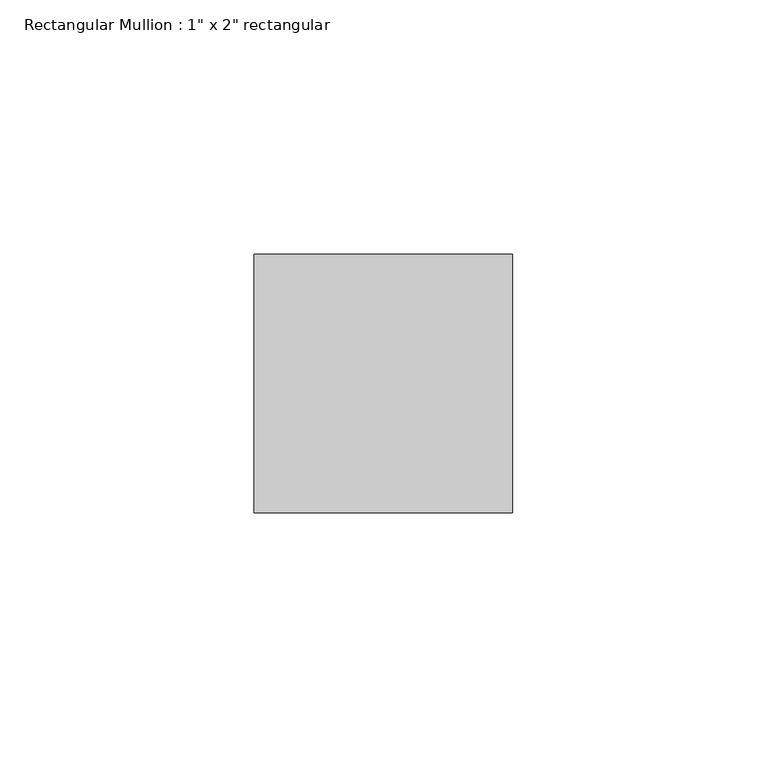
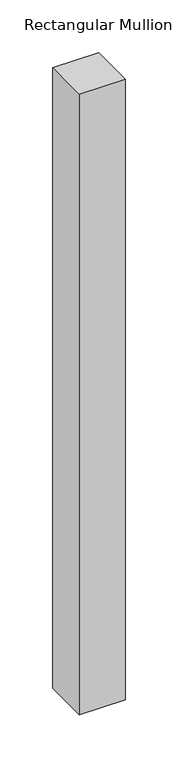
"""IFC4 building model written with IfcOpenShell, lengths in millimetres: member geometry."""

from ifc_helpers import new_model, si_unit, frame, origin, place, context, project, spatial, polyline, outline, extrude, source, transform, mapped, element, save


def member_7120eb7e(model_context):
    return source(origin(), model_context, "Body", "SweptSolid", [
        extrude(outline(polyline([(0.0, 25.4), (0.0, -25.4), (-50.8, -25.4), (-50.8, 25.4), (0.0, 25.4)])), frame((0.0, 0.0, -721.7990561), z_axis=(0.0, 0.0, 1.0), x_axis=(1.0, 0.0, 0.0)), (0.0, 0.0, 1.0), 721.7990561),
    ])


if __name__ == "__main__":
    model = new_model("IFC4")
    model_context = context("Model", 3, world=origin())
    ifc_project = project(units=[si_unit("LENGTHUNIT", "METRE", prefix="MILLI")], contexts=[model_context])
    site = spatial("IfcSite", under=ifc_project)
    building = spatial("IfcBuilding", under=site)
    placement = place(None, origin())
    member_shape = member_7120eb7e(model_context)
    element("IfcMember", 1, ObjectType="Rectangular Mullion : 1\" x 2\" rectangular", at=placement, inside=building, context=model_context, shape_type="MappedRepresentation", body=[
        mapped(member_shape, transform((0.0, 0.0, 0.0), x_axis=(1.0, 0.0, 0.0), y_axis=(0.0, 1.0, 0.0), z_axis=(0.0, 0.0, 1.0))),
    ])
    save(model, "model.ifc")
